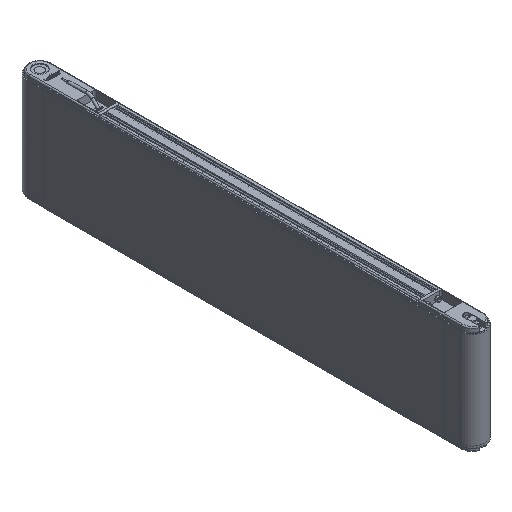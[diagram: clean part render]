
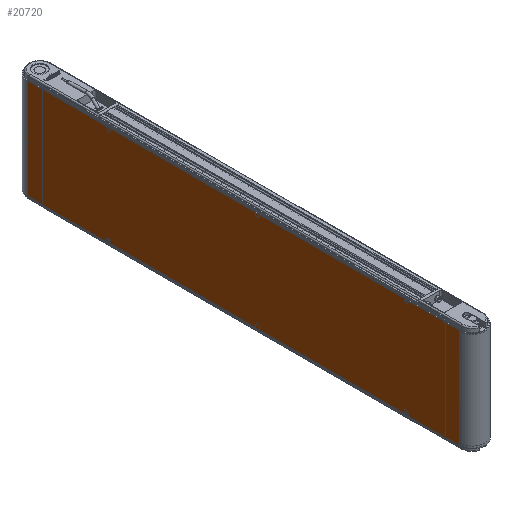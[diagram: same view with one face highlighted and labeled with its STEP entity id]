
A CAD part, isometric view. The second image highlights one B-rep face of the part: STEP entity #20720.
In plain terms, the highlighted planar face has unit normal (-1, 0, 0).
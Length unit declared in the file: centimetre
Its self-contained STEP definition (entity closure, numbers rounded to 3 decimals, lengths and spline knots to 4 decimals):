
#2194=FACE_OUTER_BOUND('',#3336,.T.);
#3336=EDGE_LOOP('',(#13934,#13935,#13936,#13937));
#4746=LINE('',#30543,#6359);
#4747=LINE('',#30548,#6360);
#4749=LINE('',#30552,#6362);
#4750=LINE('',#30553,#6363);
#6359=VECTOR('',#24950,1.);
#6360=VECTOR('',#24955,1.);
#6362=VECTOR('',#24959,1.);
#6363=VECTOR('',#24960,1.);
#8175=VERTEX_POINT('',#30537);
#8177=VERTEX_POINT('',#30541);
#8179=VERTEX_POINT('',#30546);
#8180=VERTEX_POINT('',#30551);
#10404=EDGE_CURVE('',#8175,#8177,#4746,.T.);
#10406=EDGE_CURVE('',#8179,#8177,#4747,.T.);
#10408=EDGE_CURVE('',#8179,#8180,#4749,.T.);
#10409=EDGE_CURVE('',#8180,#8175,#4750,.T.);
#13934=ORIENTED_EDGE('',*,*,#10408,.T.);
#13935=ORIENTED_EDGE('',*,*,#10409,.T.);
#13936=ORIENTED_EDGE('',*,*,#10404,.T.);
#13937=ORIENTED_EDGE('',*,*,#10406,.F.);
#18975=PLANE('',#22137);
#20720=ADVANCED_FACE('',(#2194),#18975,.T.);
#22137=AXIS2_PLACEMENT_3D('',#30550,#24957,#24958);
#24950=DIRECTION('',(0.,1.,0.));
#24955=DIRECTION('',(0.,0.,1.));
#24957=DIRECTION('center_axis',(-1.,0.,0.));
#24958=DIRECTION('ref_axis',(0.,0.,
1.));
#24959=DIRECTION('',(0.,-1.,0.));
#24960=DIRECTION('',(0.,0.,1.));
#30537=CARTESIAN_POINT('',(-2.33,-67.,9.25));
#30541=CARTESIAN_POINT('',(-2.33,13.,9.25));
#30543=CARTESIAN_POINT('',(-2.33,13.,9.25));
#30546=CARTESIAN_POINT('',(-2.33,13.,-9.25));
#30548=CARTESIAN_POINT('',(-2.33,13.,0.));
#30550=CARTESIAN_POINT('Origin',(-2.33,13.,0.));
#30551=CARTESIAN_POINT('',(-2.33,-67.,-9.25));
#30552=CARTESIAN_POINT('',(-2.33,13.,-9.25));
#30553=CARTESIAN_POINT('',(-2.33,-67.,0.));
